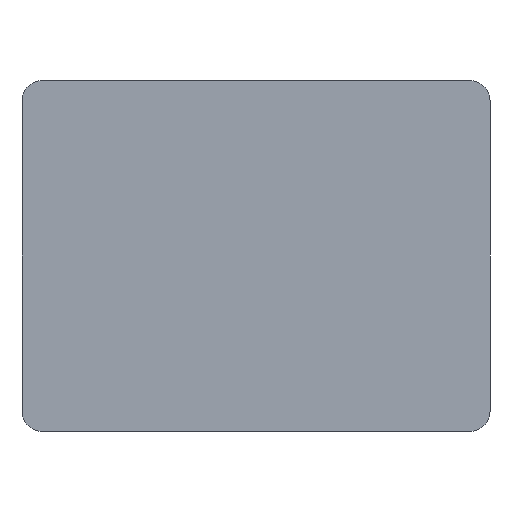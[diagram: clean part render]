
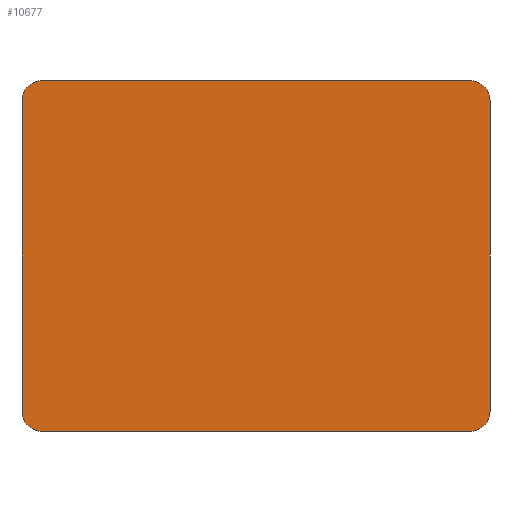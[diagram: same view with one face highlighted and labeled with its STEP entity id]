
A CAD part, left-side view. The second image highlights one B-rep face of the part: STEP entity #10677.
In plain terms, the highlighted planar face has unit normal (-1, 0, 0).
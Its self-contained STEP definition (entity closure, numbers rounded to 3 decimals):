
#1400=PLANE('',#10967);
#1958=FACE_OUTER_BOUND('',#2590,.T.);
#2590=EDGE_LOOP('',(#9874,#9875,#9876,#9877,#9878,#9879,#9880,#9881));
#3359=LINE('',#21658,#4127);
#3364=LINE('',#21686,#4132);
#3373=LINE('',#21729,#4141);
#3376=LINE('',#21738,#4144);
#4127=VECTOR('',#12116,10.);
#4132=VECTOR('',#12155,10.);
#4141=VECTOR('',#12206,10.);
#4144=VECTOR('',#12215,10.);
#4213=CIRCLE('',#10965,7.);
#4214=CIRCLE('',#10968,7.);
#4215=CIRCLE('',#10969,7.);
#4216=CIRCLE('',#10970,7.);
#5237=VERTEX_POINT('',#21652);
#5239=VERTEX_POINT('',#21656);
#5243=VERTEX_POINT('',#21680);
#5245=VERTEX_POINT('',#21684);
#5257=VERTEX_POINT('',#21724);
#5258=VERTEX_POINT('',#21728);
#5260=VERTEX_POINT('',#21735);
#5261=VERTEX_POINT('',#21737);
#6783=EDGE_CURVE('',#5239,#5237,#3359,.T.);
#6790=EDGE_CURVE('',#5245,#5243,#3364,.T.);
#6809=EDGE_CURVE('',#5243,#5257,#4213,.T.);
#6811=EDGE_CURVE('',#5257,#5258,#3373,.T.);
#6814=EDGE_CURVE('',#5237,#5245,#4214,.T.);
#6815=EDGE_CURVE('',#5260,#5239,#4215,.T.);
#6816=EDGE_CURVE('',#5261,#5260,#3376,.T.);
#6817=EDGE_CURVE('',#5258,#5261,#4216,.T.);
#9874=ORIENTED_EDGE('',*,*,#6809,.F.);
#9875=ORIENTED_EDGE('',*,*,#6790,.F.);
#9876=ORIENTED_EDGE('',*,*,#6814,.F.);
#9877=ORIENTED_EDGE('',*,*,#6783,.F.);
#9878=ORIENTED_EDGE('',*,*,#6815,.F.);
#9879=ORIENTED_EDGE('',*,*,#6816,.F.);
#9880=ORIENTED_EDGE('',*,*,#6817,.F.);
#9881=ORIENTED_EDGE('',*,*,#6811,.F.);
#10677=ADVANCED_FACE('',(#1958),#1400,.F.);
#10965=AXIS2_PLACEMENT_3D('',#21725,#12201,#12202);
#10967=AXIS2_PLACEMENT_3D('',#21733,#12209,#12210);
#10968=AXIS2_PLACEMENT_3D('',#21734,#12211,#12212);
#10969=AXIS2_PLACEMENT_3D('',#21736,#12213,#12214);
#10970=AXIS2_PLACEMENT_3D('',#21739,#12216,#12217);
#12116=DIRECTION('',(0.,0.,-1.));
#12155=DIRECTION('',(0.,1.,0.));
#12201=DIRECTION('center_axis',(1.,0.,0.));
#12202=DIRECTION('ref_axis',(0.,0.707,-0.707));
#12206=DIRECTION('',(0.,0.,1.));
#12209=DIRECTION('center_axis',(1.,0.,0.));
#12210=DIRECTION('ref_axis',(0.,1.,0.));
#12211=DIRECTION('center_axis',(1.,0.,0.));
#12212=DIRECTION('ref_axis',(0.,-0.707,-0.707));
#12213=DIRECTION('center_axis',(1.,0.,0.));
#12214=DIRECTION('ref_axis',(0.,-0.707,0.707));
#12215=DIRECTION('',(0.,-1.,0.));
#12216=DIRECTION('center_axis',(1.,0.,0.));
#12217=DIRECTION('ref_axis',(0.,0.707,0.707));
#21652=CARTESIAN_POINT('',(0.,0.,7.));
#21656=CARTESIAN_POINT('',(0.,0.,113.));
#21658=CARTESIAN_POINT('',(0.,0.,120.));
#21680=CARTESIAN_POINT('',(0.,153.,0.));
#21684=CARTESIAN_POINT('',(0.,7.,0.));
#21686=CARTESIAN_POINT('',(0.,0.,0.));
#21724=CARTESIAN_POINT('',(0.,160.,7.));
#21725=CARTESIAN_POINT('Origin',(0.,153.,7.));
#21728=CARTESIAN_POINT('',(0.,160.,113.));
#21729=CARTESIAN_POINT('',(0.,160.,0.));
#21733=CARTESIAN_POINT('Origin',(0.,80.,60.));
#21734=CARTESIAN_POINT('Origin',(0.,7.,7.));
#21735=CARTESIAN_POINT('',(0.,7.,120.));
#21736=CARTESIAN_POINT('Origin',(0.,7.,113.));
#21737=CARTESIAN_POINT('',(0.,153.,120.));
#21738=CARTESIAN_POINT('',(0.,160.,120.));
#21739=CARTESIAN_POINT('Origin',(0.,153.,113.));
